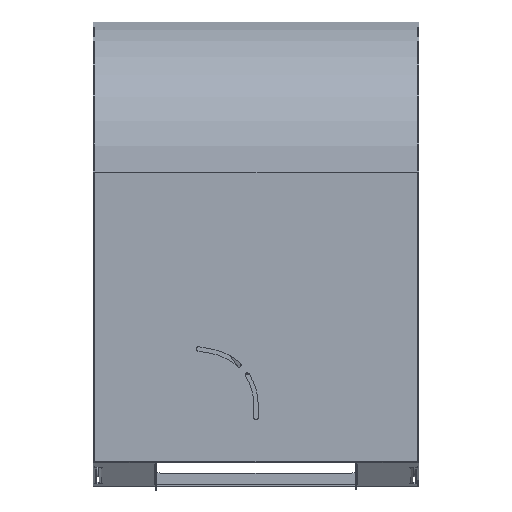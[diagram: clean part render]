
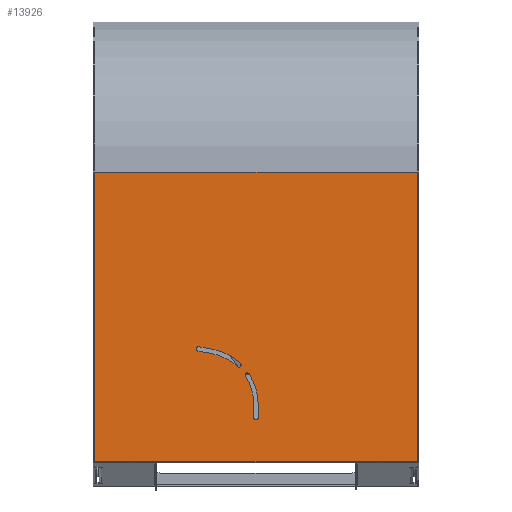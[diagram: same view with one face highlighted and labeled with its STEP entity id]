
A CAD part, top view. The second image highlights one B-rep face of the part: STEP entity #13926.
In plain terms, the highlighted planar face has unit normal (0, 0, 1) as drawn and (0, 1, 0) by its records, which use the part's own axes.
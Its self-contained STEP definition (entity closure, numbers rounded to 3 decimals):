
#9613=CARTESIAN_POINT('',(-33.067,32.982,2.5));
#9614=VERTEX_POINT('',#9613);
#9621=CARTESIAN_POINT('',(-18.067,32.982,2.5));
#9622=VERTEX_POINT('',#9621);
#9623=CARTESIAN_POINT('',(-18.067,32.982,2.5));
#9624=DIRECTION('',(-1.0,0.0,0.0));
#9625=VECTOR('',#9624,15.0);
#9626=LINE('',#9623,#9625);
#9627=EDGE_CURVE('',#9622,#9614,#9626,.T.);
#9653=CARTESIAN_POINT('',(-18.067,32.982,-2.5));
#9654=VERTEX_POINT('',#9653);
#9661=CARTESIAN_POINT('',(-33.067,32.982,-2.5));
#9662=VERTEX_POINT('',#9661);
#9663=CARTESIAN_POINT('',(-33.067,32.982,-2.5));
#9664=DIRECTION('',(1.0,0.0,0.0));
#9665=VECTOR('',#9664,15.0);
#9666=LINE('',#9663,#9665);
#9667=EDGE_CURVE('',#9662,#9654,#9666,.T.);
#9684=CARTESIAN_POINT('',(-33.067,32.982,0.0));
#9685=DIRECTION('',(0.0,-1.0,0.0));
#9686=DIRECTION('',(-1.0,0.0,0.0));
#9687=AXIS2_PLACEMENT_3D('',#9684,#9685,#9686);
#9688=CIRCLE('',#9687,2.5);
#9689=EDGE_CURVE('',#9614,#9662,#9688,.T.);
#9717=CARTESIAN_POINT('',(17.293,32.982,-7.959));
#9718=VERTEX_POINT('',#9717);
#9719=CARTESIAN_POINT('',(-18.067,32.982,-62.5));
#9720=DIRECTION('',(0.0,-1.0,0.0));
#9721=DIRECTION('',(0.0,0.0,1.0));
#9722=AXIS2_PLACEMENT_3D('',#9719,#9720,#9721);
#9723=CIRCLE('',#9722,65.0);
#9724=EDGE_CURVE('',#9718,#9622,#9723,.T.);
#9750=CARTESIAN_POINT('',(14.573,32.982,-12.155));
#9751=VERTEX_POINT('',#9750);
#9752=CARTESIAN_POINT('',(15.933,32.982,-10.057));
#9753=DIRECTION('',(0.0,-1.0,0.0));
#9754=DIRECTION('',(0.544,0.0,0.839));
#9755=AXIS2_PLACEMENT_3D('',#9752,#9753,#9754);
#9756=CIRCLE('',#9755,2.5);
#9757=EDGE_CURVE('',#9751,#9718,#9756,.T.);
#9781=CARTESIAN_POINT('',(-18.067,32.982,-62.5));
#9782=DIRECTION('',(0.0,1.0,0.0));
#9783=DIRECTION('',(0.0,0.0,-1.0));
#9784=AXIS2_PLACEMENT_3D('',#9781,#9782,#9783);
#9785=CIRCLE('',#9784,60.0);
#9786=EDGE_CURVE('',#9654,#9751,#9785,.T.);
#9808=CARTESIAN_POINT('',(25.629,32.982,-21.382));
#9809=VERTEX_POINT('',#9808);
#9816=CARTESIAN_POINT('',(29.27,32.982,-17.955));
#9817=VERTEX_POINT('',#9816);
#9818=CARTESIAN_POINT('',(27.449,32.982,-19.669));
#9819=DIRECTION('',(0.0,-1.,0.0));
#9820=DIRECTION('',(-0.728,0.0,-0.685));
#9821=AXIS2_PLACEMENT_3D('',#9818,#9819,#9820);
#9822=CIRCLE('',#9821,2.5);
#9823=EDGE_CURVE('',#9817,#9809,#9822,.T.);
#9849=CARTESIAN_POINT('',(45.946,32.982,-51.213));
#9850=VERTEX_POINT('',#9849);
#9851=CARTESIAN_POINT('',(-18.067,32.982,-62.5));
#9852=DIRECTION('',(0.0,-1.0,0.0));
#9853=DIRECTION('',(0.0,0.0,1.0));
#9854=AXIS2_PLACEMENT_3D('',#9851,#9852,#9853);
#9855=CIRCLE('',#9854,65.0);
#9856=EDGE_CURVE('',#9850,#9817,#9855,.T.);
#9881=CARTESIAN_POINT('',(48.55,32.982,-65.985));
#9882=VERTEX_POINT('',#9881);
#9883=CARTESIAN_POINT('',(48.55,32.982,-65.985));
#9884=DIRECTION('',(-0.174,0.0,0.985));
#9885=VECTOR('',#9884,15.);
#9886=LINE('',#9883,#9885);
#9887=EDGE_CURVE('',#9882,#9850,#9886,.T.);
#9913=CARTESIAN_POINT('',(43.626,32.982,-66.853));
#9914=VERTEX_POINT('',#9913);
#9921=CARTESIAN_POINT('',(41.022,32.982,-52.081));
#9922=VERTEX_POINT('',#9921);
#9923=CARTESIAN_POINT('',(41.022,32.982,-52.081));
#9924=DIRECTION('',(0.174,0.0,-0.985));
#9925=VECTOR('',#9924,15.);
#9926=LINE('',#9923,#9925);
#9927=EDGE_CURVE('',#9922,#9914,#9926,.T.);
#9951=CARTESIAN_POINT('',(-18.067,32.982,-62.5));
#9952=DIRECTION('',(0.0,1.0,0.0));
#9953=DIRECTION('',(0.0,0.0,-1.0));
#9954=AXIS2_PLACEMENT_3D('',#9951,#9952,#9953);
#9955=CIRCLE('',#9954,60.0);
#9956=EDGE_CURVE('',#9809,#9922,#9955,.T.);
#9968=CARTESIAN_POINT('',(46.088,32.982,-66.419));
#9969=DIRECTION('',(0.0,-1.0,0.0));
#9970=DIRECTION('',(-1.0,0.0,0.0));
#9971=AXIS2_PLACEMENT_3D('',#9968,#9969,#9970);
#9972=CIRCLE('',#9971,2.5);
#9973=EDGE_CURVE('',#9914,#9882,#9972,.T.);
#13017=CARTESIAN_POINT('',(249.936,32.982,186.0));
#13018=VERTEX_POINT('',#13017);
#13026=CARTESIAN_POINT('',(-83.067,32.982,186.0));
#13027=VERTEX_POINT('',#13026);
#13028=CARTESIAN_POINT('',(-83.067,32.982,186.0));
#13029=DIRECTION('',(1.0,0.0,0.0));
#13030=VECTOR('',#13029,333.003);
#13031=LINE('',#13028,#13030);
#13032=EDGE_CURVE('',#13027,#13018,#13031,.T.);
#13866=CARTESIAN_POINT('',(-83.067,32.982,-186.0));
#13867=VERTEX_POINT('',#13866);
#13868=CARTESIAN_POINT('',(-83.067,32.982,-186.0));
#13869=DIRECTION('',(0.0,0.0,1.0));
#13870=VECTOR('',#13869,372.0);
#13871=LINE('',#13868,#13870);
#13872=EDGE_CURVE('',#13867,#13027,#13871,.T.);
#13887=CARTESIAN_POINT('',(-83.067,32.982,-186.0));
#13888=DIRECTION('',(0.0,1.0,0.0));
#13889=DIRECTION('',(0.0,0.0,1.0));
#13890=AXIS2_PLACEMENT_3D('',#13887,#13888,#13889);
#13891=PLANE('',#13890);
#13892=ORIENTED_EDGE('',*,*,#13032,.T.);
#13893=CARTESIAN_POINT('',(249.936,32.982,-186.0));
#13894=VERTEX_POINT('',#13893);
#13895=CARTESIAN_POINT('',(249.936,32.982,-186.0));
#13896=DIRECTION('',(0.0,0.0,1.0));
#13897=VECTOR('',#13896,372.0);
#13898=LINE('',#13895,#13897);
#13899=EDGE_CURVE('',#13894,#13018,#13898,.T.);
#13900=ORIENTED_EDGE('',*,*,#13899,.F.);
#13901=CARTESIAN_POINT('',(-83.067,32.982,-186.0));
#13902=DIRECTION('',(1.0,0.0,0.0));
#13903=VECTOR('',#13902,333.003);
#13904=LINE('',#13901,#13903);
#13905=EDGE_CURVE('',#13867,#13894,#13904,.T.);
#13906=ORIENTED_EDGE('',*,*,#13905,.F.);
#13907=ORIENTED_EDGE('',*,*,#13872,.T.);
#13908=EDGE_LOOP('',(#13892,#13900,#13906,#13907));
#13909=FACE_OUTER_BOUND('',#13908,.T.);
#13910=ORIENTED_EDGE('',*,*,#9667,.T.);
#13911=ORIENTED_EDGE('',*,*,#9786,.T.);
#13912=ORIENTED_EDGE('',*,*,#9757,.T.);
#13913=ORIENTED_EDGE('',*,*,#9724,.T.);
#13914=ORIENTED_EDGE('',*,*,#9627,.T.);
#13915=ORIENTED_EDGE('',*,*,#9689,.T.);
#13916=EDGE_LOOP('',(#13910,#13911,#13912,#13913,#13914,#13915));
#13917=FACE_BOUND('',#13916,.T.);
#13918=ORIENTED_EDGE('',*,*,#9927,.T.);
#13919=ORIENTED_EDGE('',*,*,#9973,.T.);
#13920=ORIENTED_EDGE('',*,*,#9887,.T.);
#13921=ORIENTED_EDGE('',*,*,#9856,.T.);
#13922=ORIENTED_EDGE('',*,*,#9823,.T.);
#13923=ORIENTED_EDGE('',*,*,#9956,.T.);
#13924=EDGE_LOOP('',(#13918,#13919,#13920,#13921,#13922,#13923));
#13925=FACE_BOUND('',#13924,.T.);
#13926=ADVANCED_FACE('',(#13909,#13917,#13925),#13891,.T.);
